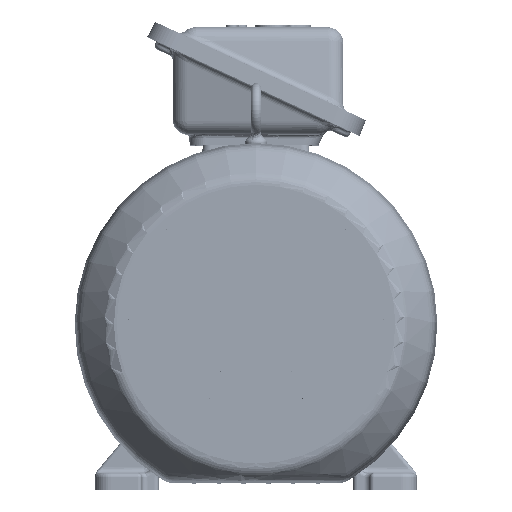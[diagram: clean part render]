
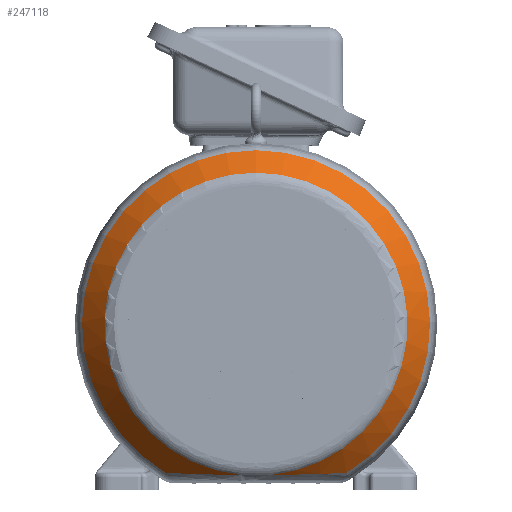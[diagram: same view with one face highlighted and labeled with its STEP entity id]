
A CAD part, top view. The second image highlights one B-rep face of the part: STEP entity #247118.
In plain terms, the highlighted conical face has half-angle 40 degrees and reference radius 130.28 mm.
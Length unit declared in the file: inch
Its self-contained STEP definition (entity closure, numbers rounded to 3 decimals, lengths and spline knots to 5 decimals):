
#243175=CARTESIAN_POINT('',(0.,0.,-4.51154));
#243176=DIRECTION('',(0.,0.,1.));
#243177=DIRECTION('',(0.,1.,0.));
#243178=AXIS2_PLACEMENT_3D('',#243175,#243176,#243177);
#243180=CARTESIAN_POINT('',(0.,0.,-4.51154));
#243181=DIRECTION('',(0.,0.,-1.));
#243182=DIRECTION('',(0.,1.,0.));
#243183=AXIS2_PLACEMENT_3D('',#243180,#243181,#243182);
#243185=CARTESIAN_POINT('',(2.84923,-4.6852,
-3.66687));
#243186=CARTESIAN_POINT('',(2.67557,-4.6917,
-3.76779));
#243187=CARTESIAN_POINT('',(2.33723,-4.70423,
-3.94939));
#243188=CARTESIAN_POINT('',(1.85597,-4.7208,
-4.16443));
#243189=CARTESIAN_POINT('',(1.38906,-4.73466,
-4.32953));
#243190=CARTESIAN_POINT('',(0.93047,-4.74522,
-4.44735));
#243191=CARTESIAN_POINT('',(0.626,-4.74973,
-4.49528));
#243192=CARTESIAN_POINT('',(0.47298,-4.75126,
-4.51154));
#243194=CARTESIAN_POINT('',(0.,0.,-3.66686));
#243195=DIRECTION('',(0.,0.,1.));
#243196=DIRECTION('',(0.52,-0.854,0.));
#243197=AXIS2_PLACEMENT_3D('',#243194,#243195,#243196);
#243199=CARTESIAN_POINT('',(-0.473,-4.75126,
-4.51154));
#243200=CARTESIAN_POINT('',(-0.6253,-4.74973,
-4.49537));
#243201=CARTESIAN_POINT('',(-0.92873,-4.74526,
-4.4477));
#243202=CARTESIAN_POINT('',(-1.38806,-4.73469,
-4.32985));
#243203=CARTESIAN_POINT('',(-1.85461,-4.72084,
-4.16495));
#243204=CARTESIAN_POINT('',(-2.33576,-4.70429,
-3.95015));
#243205=CARTESIAN_POINT('',(-2.67496,-4.6917,
-3.76812));
#243206=CARTESIAN_POINT('',(-2.84922,-4.68518,
-3.66686));
#245415=CARTESIAN_POINT('',(0.,4.77475,-4.51154));
#245417=VERTEX_POINT('',#245415);
#246384=CARTESIAN_POINT('',(-2.84931,-4.68513,
-3.66686));
#246385=VERTEX_POINT('',#246384);
#246386=VERTEX_POINT('',#243199);
#246388=VERTEX_POINT('',#243185);
#246389=VERTEX_POINT('',#243192);
#247103=CARTESIAN_POINT('',(0.,0.,-4.0892));
#247104=DIRECTION('',(0.,0.,1.));
#247105=DIRECTION('',(0.,1.,0.));
#247106=AXIS2_PLACEMENT_3D('',#247103,#247104,#247105);
#247107=CONICAL_SURFACE('',#247106,5.12913,40.);
#247109=ORIENTED_EDGE('',*,*,#247108,.F.);
#247110=ORIENTED_EDGE('',*,*,#247026,.T.);
#247112=ORIENTED_EDGE('',*,*,#247111,.F.);
#247114=ORIENTED_EDGE('',*,*,#247113,.T.);
#247115=ORIENTED_EDGE('',*,*,#247089,.F.);
#247116=EDGE_LOOP('',(#247109,#247110,#247112,#247114,#247115));
#247117=FACE_OUTER_BOUND('',#247116,.F.);
#247118=ADVANCED_FACE('',(#247117),#247107,.T.);
#243179=CIRCLE('',#243178,4.77475);
#243184=CIRCLE('',#243183,4.77475);
#243193=B_SPLINE_CURVE_WITH_KNOTS('',3,(#243185,#243186,#243187,#243188,#243189,
#243190,#243191,#243192),.UNSPECIFIED.,.F.,.F.,(4,1,1,1,1,4),(0.,0.2,0.4,
0.6,0.8,1.),.UNSPECIFIED.);
#243198=CIRCLE('',#243197,5.48352);
#243207=B_SPLINE_CURVE_WITH_KNOTS('',3,(#243199,#243200,#243201,#243202,#243203,
#243204,#243205,#243206),.UNSPECIFIED.,.F.,.F.,(4,1,1,1,1,4),(0.,0.2,0.4,
0.6,0.8,1.),.UNSPECIFIED.);
#247026=EDGE_CURVE('',#245417,#246389,#243184,.T.);
#247089=EDGE_CURVE('',#246386,#246385,#243207,.T.);
#247108=EDGE_CURVE('',#245417,#246386,#243179,.T.);
#247111=EDGE_CURVE('',#246388,#246389,#243193,.T.);
#247113=EDGE_CURVE('',#246388,#246385,#243198,.T.);
